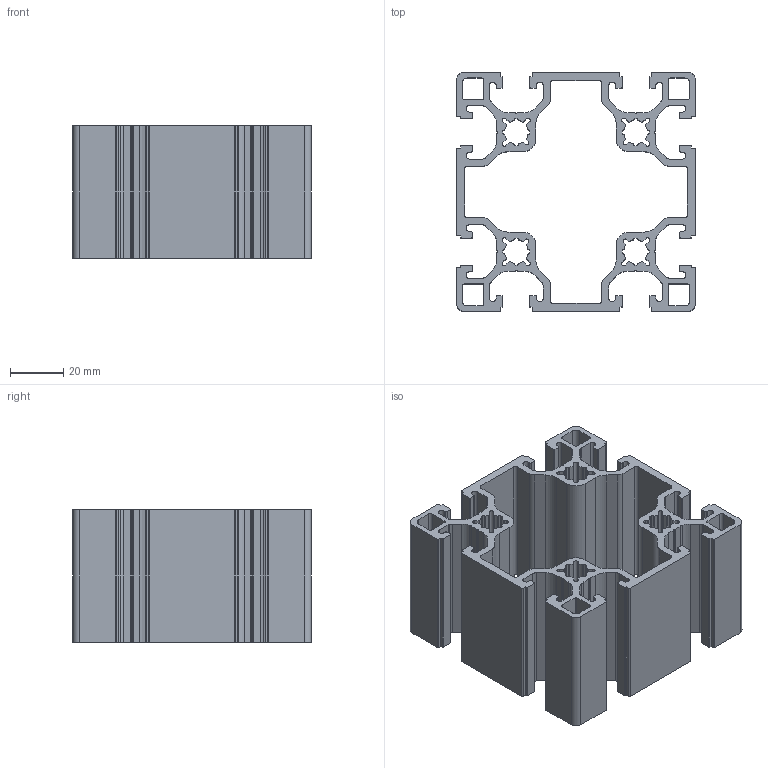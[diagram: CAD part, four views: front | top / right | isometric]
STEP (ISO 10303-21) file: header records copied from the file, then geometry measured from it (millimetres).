
FILE_DESCRIPTION (( 'STEP AP203' ), '1' );
FILE_NAME ('90X90 HAFÝF.STEP', '2018-04-06T08:39:20', ( '' ), ( '' ), 'SwSTEP 2.0', 'SolidWorks 2014', '' );
FILE_SCHEMA (( 'CONFIG_CONTROL_DESIGN' ));
Length unit declared in the file: millimetre
Products named in the file (1): 90X90 HAFÝF
Bounding box: 90 x 90 x 50 mm (x, y, z)
Volume: 94864.3 mm3; surface area: 72326.7 mm2
Topology: 1 solids, 1 shells, 619 faces, 1851 edges, 1234 vertices
Faces by surface type: cylinder 369, plane 250
Entity records: 21236 total; most frequent: DIRECTION 3829, CARTESIAN_POINT 3705, ORIENTED_EDGE 3702, EDGE_CURVE 1851, AXIS2_PLACEMENT_3D 1358, VERTEX_POINT 1234, VECTOR 1113, LINE 1113
